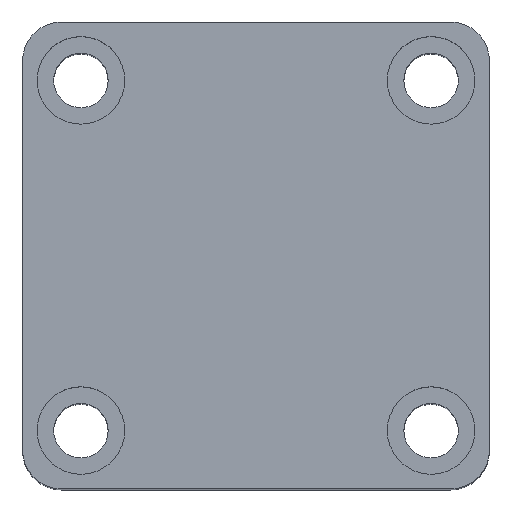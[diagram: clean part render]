
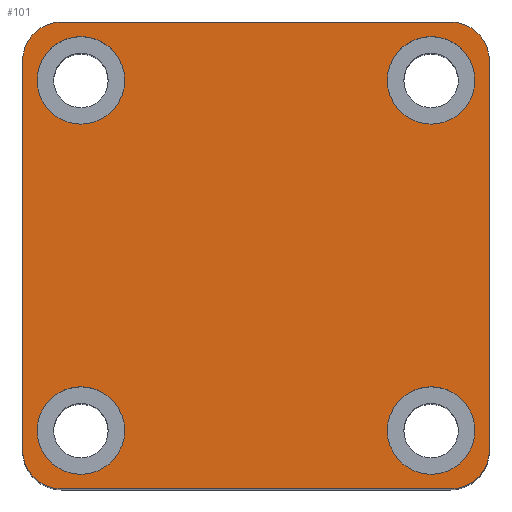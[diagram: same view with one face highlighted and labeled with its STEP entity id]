
A CAD part, top view. The second image highlights one B-rep face of the part: STEP entity #101.
In plain terms, the highlighted planar face has unit normal (0, 0, 1).
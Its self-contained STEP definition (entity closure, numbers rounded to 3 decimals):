
#101 = ADVANCED_FACE ( 'NONE', ( #2044, #2036, #2040, #2042, #2038 ), #1440, .T. ) ;
#599 = ORIENTED_EDGE ( 'NONE', *, *, #1756, .F. ) ;
#601 = ORIENTED_EDGE ( 'NONE', *, *, #1693, .F. ) ;
#602 = ORIENTED_EDGE ( 'NONE', *, *, #1757, .F. ) ;
#604 = ORIENTED_EDGE ( 'NONE', *, *, #1697, .F. ) ;
#606 = ORIENTED_EDGE ( 'NONE', *, *, #1758, .F. ) ;
#608 = ORIENTED_EDGE ( 'NONE', *, *, #1701, .F. ) ;
#610 = ORIENTED_EDGE ( 'NONE', *, *, #1759, .F. ) ;
#611 = ORIENTED_EDGE ( 'NONE', *, *, #1705, .F. ) ;
#613 = ORIENTED_EDGE ( 'NONE', *, *, #1745, .T. ) ;
#615 = ORIENTED_EDGE ( 'NONE', *, *, #1760, .T. ) ;
#619 = ORIENTED_EDGE ( 'NONE', *, *, #1747, .T. ) ;
#621 = ORIENTED_EDGE ( 'NONE', *, *, #1761, .T. ) ;
#623 = ORIENTED_EDGE ( 'NONE', *, *, #1751, .T. ) ;
#624 = ORIENTED_EDGE ( 'NONE', *, *, #1762, .T. ) ;
#625 = ORIENTED_EDGE ( 'NONE', *, *, #1739, .T. ) ;
#627 = ORIENTED_EDGE ( 'NONE', *, *, #1763, .T. ) ;
#779 = EDGE_LOOP ( 'NONE', ( #599, #601 ) ) ;
#780 = EDGE_LOOP ( 'NONE', ( #610, #611 ) ) ;
#782 = EDGE_LOOP ( 'NONE', ( #602, #604 ) ) ;
#784 = EDGE_LOOP ( 'NONE', ( #613, #615, #619, #621, #623, #624, #625, #627 ) ) ;
#785 = EDGE_LOOP ( 'NONE', ( #606, #608 ) ) ;
#888 = VERTEX_POINT ( 'NONE', #1415 ) ;
#895 = VERTEX_POINT ( 'NONE', #1410 ) ;
#900 = VERTEX_POINT ( 'NONE', #1404 ) ;
#902 = VERTEX_POINT ( 'NONE', #1401 ) ;
#918 = VERTEX_POINT ( 'NONE', #1380 ) ;
#920 = VERTEX_POINT ( 'NONE', #1377 ) ;
#922 = VERTEX_POINT ( 'NONE', #1373 ) ;
#923 = VERTEX_POINT ( 'NONE', #1372 ) ;
#925 = VERTEX_POINT ( 'NONE', #1368 ) ;
#928 = VERTEX_POINT ( 'NONE', #1365 ) ;
#932 = VERTEX_POINT ( 'NONE', #1360 ) ;
#935 = VERTEX_POINT ( 'NONE', #1355 ) ;
#951 = VERTEX_POINT ( 'NONE', #1337 ) ;
#963 = VERTEX_POINT ( 'NONE', #1326 ) ;
#1011 = VERTEX_POINT ( 'NONE', #1289 ) ;
#1028 = VERTEX_POINT ( 'NONE', #1267 ) ;
#1102 = AXIS2_PLACEMENT_3D ( 'NONE', #1437, #1443, #1435 ) ;
#1267 = CARTESIAN_POINT ( 'NONE',  ( 20., 24., 65. ) ) ;
#1289 = CARTESIAN_POINT ( 'NONE',  ( -13.5, 18., 65. ) ) ;
#1326 = CARTESIAN_POINT ( 'NONE',  ( -20., 24., 65. ) ) ;
#1337 = CARTESIAN_POINT ( 'NONE',  ( -20., -24., 65. ) ) ;
#1355 = CARTESIAN_POINT ( 'NONE',  ( -24., 20., 65. ) ) ;
#1360 = CARTESIAN_POINT ( 'NONE',  ( -22.5, 18., 65. ) ) ;
#1365 = CARTESIAN_POINT ( 'NONE',  ( 22.5, 18., 65. ) ) ;
#1368 = CARTESIAN_POINT ( 'NONE',  ( -13.5, -18., 65. ) ) ;
#1372 = CARTESIAN_POINT ( 'NONE',  ( 13.5, 18., 65. ) ) ;
#1373 = CARTESIAN_POINT ( 'NONE',  ( 20., -24., 65. ) ) ;
#1377 = CARTESIAN_POINT ( 'NONE',  ( -24., -20., 65. ) ) ;
#1380 = CARTESIAN_POINT ( 'NONE',  ( 22.5, -18., 65. ) ) ;
#1401 = CARTESIAN_POINT ( 'NONE',  ( 24., -20., 65. ) ) ;
#1404 = CARTESIAN_POINT ( 'NONE',  ( 13.5, -18., 65. ) ) ;
#1410 = CARTESIAN_POINT ( 'NONE',  ( -22.5, -18., 65. ) ) ;
#1415 = CARTESIAN_POINT ( 'NONE',  ( 24., 20., 65. ) ) ;
#1435 = DIRECTION ( 'NONE',  ( 1., 0., 0. ) ) ;
#1437 = CARTESIAN_POINT ( 'NONE',  ( 0., 0., 65. ) ) ;
#1440 = PLANE ( 'NONE',  #1102 ) ;
#1443 = DIRECTION ( 'NONE',  ( 0., 0., 1. ) ) ;
#1693 = EDGE_CURVE ( 'NONE', #932, #1011, #1967, .T. ) ;
#1697 = EDGE_CURVE ( 'NONE', #923, #928, #1961, .T. ) ;
#1701 = EDGE_CURVE ( 'NONE', #895, #925, #1955, .T. ) ;
#1705 = EDGE_CURVE ( 'NONE', #900, #918, #1949, .T. ) ;
#1739 = EDGE_CURVE ( 'NONE', #902, #888, #1905, .T. ) ;
#1745 = EDGE_CURVE ( 'NONE', #1028, #963, #1893, .T. ) ;
#1747 = EDGE_CURVE ( 'NONE', #935, #920, #1889, .T. ) ;
#1751 = EDGE_CURVE ( 'NONE', #951, #922, #1880, .T. ) ;
#1756 = EDGE_CURVE ( 'NONE', #1011, #932, #1870, .T. ) ;
#1757 = EDGE_CURVE ( 'NONE', #928, #923, #1868, .T. ) ;
#1758 = EDGE_CURVE ( 'NONE', #925, #895, #1867, .T. ) ;
#1759 = EDGE_CURVE ( 'NONE', #918, #900, #1866, .T. ) ;
#1760 = EDGE_CURVE ( 'NONE', #963, #935, #1865, .T. ) ;
#1761 = EDGE_CURVE ( 'NONE', #920, #951, #1864, .T. ) ;
#1762 = EDGE_CURVE ( 'NONE', #922, #902, #1863, .T. ) ;
#1763 = EDGE_CURVE ( 'NONE', #888, #1028, #1862, .T. ) ;
#1862 = CIRCLE ( 'NONE', #2723, 4. ) ;
#1863 = CIRCLE ( 'NONE', #2724, 4. ) ;
#1864 = CIRCLE ( 'NONE', #2725, 4. ) ;
#1865 = CIRCLE ( 'NONE', #2726, 4. ) ;
#1866 = CIRCLE ( 'NONE', #2727, 4.5 ) ;
#1867 = CIRCLE ( 'NONE', #2728, 4.5 ) ;
#1868 = CIRCLE ( 'NONE', #2729, 4.5 ) ;
#1870 = CIRCLE ( 'NONE', #2730, 4.5 ) ;
#1877 = VECTOR ( 'NONE', #2434, 1000. ) ;
#1880 = LINE ( 'NONE', #2435, #1877 ) ;
#1886 = VECTOR ( 'NONE', #2445, 1000. ) ;
#1889 = LINE ( 'NONE', #2448, #1886 ) ;
#1890 = VECTOR ( 'NONE', #2452, 1000. ) ;
#1893 = LINE ( 'NONE', #2455, #1890 ) ;
#1902 = VECTOR ( 'NONE', #2492, 1000. ) ;
#1905 = LINE ( 'NONE', #2478, #1902 ) ;
#1949 = CIRCLE ( 'NONE', #2753, 4.5 ) ;
#1955 = CIRCLE ( 'NONE', #2755, 4.5 ) ;
#1961 = CIRCLE ( 'NONE', #2757, 4.5 ) ;
#1967 = CIRCLE ( 'NONE', #2759, 4.5 ) ;
#2036 = FACE_BOUND ( 'NONE', #782, .T. ) ;
#2038 = FACE_OUTER_BOUND ( 'NONE', #784, .T. ) ;
#2040 = FACE_BOUND ( 'NONE', #785, .T. ) ;
#2042 = FACE_BOUND ( 'NONE', #780, .T. ) ;
#2044 = FACE_BOUND ( 'NONE', #779, .T. ) ;
#2174 = DIRECTION ( 'NONE',  ( 0., 0., 1. ) ) ;
#2179 = CARTESIAN_POINT ( 'NONE',  ( 18., 18., 65. ) ) ;
#2185 = DIRECTION ( 'NONE',  ( 1., 0., 0. ) ) ;
#2213 = DIRECTION ( 'NONE',  ( 1., 0., 0. ) ) ;
#2215 = DIRECTION ( 'NONE',  ( 0., 0., 1. ) ) ;
#2220 = CARTESIAN_POINT ( 'NONE',  ( -18., 18., 65. ) ) ;
#2375 = DIRECTION ( 'NONE',  ( 1., 0., 0. ) ) ;
#2376 = DIRECTION ( 'NONE',  ( 0., 0., 1. ) ) ;
#2377 = CARTESIAN_POINT ( 'NONE',  ( 20., 20., 65. ) ) ;
#2379 = DIRECTION ( 'NONE',  ( 1., 0., 0. ) ) ;
#2381 = DIRECTION ( 'NONE',  ( 0., 0., 1. ) ) ;
#2383 = CARTESIAN_POINT ( 'NONE',  ( 20., -20., 65. ) ) ;
#2384 = DIRECTION ( 'NONE',  ( 1., 0., 0. ) ) ;
#2385 = DIRECTION ( 'NONE',  ( 0., 0., 1. ) ) ;
#2386 = CARTESIAN_POINT ( 'NONE',  ( -20., -20., 65. ) ) ;
#2387 = DIRECTION ( 'NONE',  ( 1., 0., 0. ) ) ;
#2388 = DIRECTION ( 'NONE',  ( 0., 0., 1. ) ) ;
#2389 = CARTESIAN_POINT ( 'NONE',  ( -20., 20., 65. ) ) ;
#2393 = DIRECTION ( 'NONE',  ( 1., 0., 0. ) ) ;
#2394 = DIRECTION ( 'NONE',  ( 0., 0., 1. ) ) ;
#2395 = CARTESIAN_POINT ( 'NONE',  ( 18., -18., 65. ) ) ;
#2399 = DIRECTION ( 'NONE',  ( 1., 0., 0. ) ) ;
#2400 = DIRECTION ( 'NONE',  ( 0., 0., 1. ) ) ;
#2401 = CARTESIAN_POINT ( 'NONE',  ( -18., -18., 65. ) ) ;
#2405 = DIRECTION ( 'NONE',  ( 1., 0., 0. ) ) ;
#2408 = DIRECTION ( 'NONE',  ( 0., 0., 1. ) ) ;
#2409 = CARTESIAN_POINT ( 'NONE',  ( 18., 18., 65. ) ) ;
#2412 = DIRECTION ( 'NONE',  ( 1., 0., 0. ) ) ;
#2413 = DIRECTION ( 'NONE',  ( 0., 0., 1. ) ) ;
#2414 = CARTESIAN_POINT ( 'NONE',  ( -18., 18., 65. ) ) ;
#2434 = DIRECTION ( 'NONE',  ( 1., 0., 0. ) ) ;
#2435 = CARTESIAN_POINT ( 'NONE',  ( -24., -24., 65. ) ) ;
#2445 = DIRECTION ( 'NONE',  ( 0., -1., 0. ) ) ;
#2448 = CARTESIAN_POINT ( 'NONE',  ( -24., 24., 65. ) ) ;
#2452 = DIRECTION ( 'NONE',  ( -1., 0., 0. ) ) ;
#2455 = CARTESIAN_POINT ( 'NONE',  ( -24., 24., 65. ) ) ;
#2478 = CARTESIAN_POINT ( 'NONE',  ( 24., 24., 65. ) ) ;
#2492 = DIRECTION ( 'NONE',  ( 0., 1., 0. ) ) ;
#2603 = DIRECTION ( 'NONE',  ( 1., 0., 0. ) ) ;
#2604 = DIRECTION ( 'NONE',  ( 0., 0., 1. ) ) ;
#2606 = CARTESIAN_POINT ( 'NONE',  ( 18., -18., 65. ) ) ;
#2615 = DIRECTION ( 'NONE',  ( 1., 0., 0. ) ) ;
#2616 = DIRECTION ( 'NONE',  ( 0., 0., 1. ) ) ;
#2618 = CARTESIAN_POINT ( 'NONE',  ( -18., -18., 65. ) ) ;
#2723 = AXIS2_PLACEMENT_3D ( 'NONE', #2377, #2376, #2375 ) ;
#2724 = AXIS2_PLACEMENT_3D ( 'NONE', #2383, #2381, #2379 ) ;
#2725 = AXIS2_PLACEMENT_3D ( 'NONE', #2386, #2385, #2384 ) ;
#2726 = AXIS2_PLACEMENT_3D ( 'NONE', #2389, #2388, #2387 ) ;
#2727 = AXIS2_PLACEMENT_3D ( 'NONE', #2395, #2394, #2393 ) ;
#2728 = AXIS2_PLACEMENT_3D ( 'NONE', #2401, #2400, #2399 ) ;
#2729 = AXIS2_PLACEMENT_3D ( 'NONE', #2409, #2408, #2405 ) ;
#2730 = AXIS2_PLACEMENT_3D ( 'NONE', #2414, #2413, #2412 ) ;
#2753 = AXIS2_PLACEMENT_3D ( 'NONE', #2606, #2604, #2603 ) ;
#2755 = AXIS2_PLACEMENT_3D ( 'NONE', #2618, #2616, #2615 ) ;
#2757 = AXIS2_PLACEMENT_3D ( 'NONE', #2179, #2174, #2185 ) ;
#2759 = AXIS2_PLACEMENT_3D ( 'NONE', #2220, #2215, #2213 ) ;
